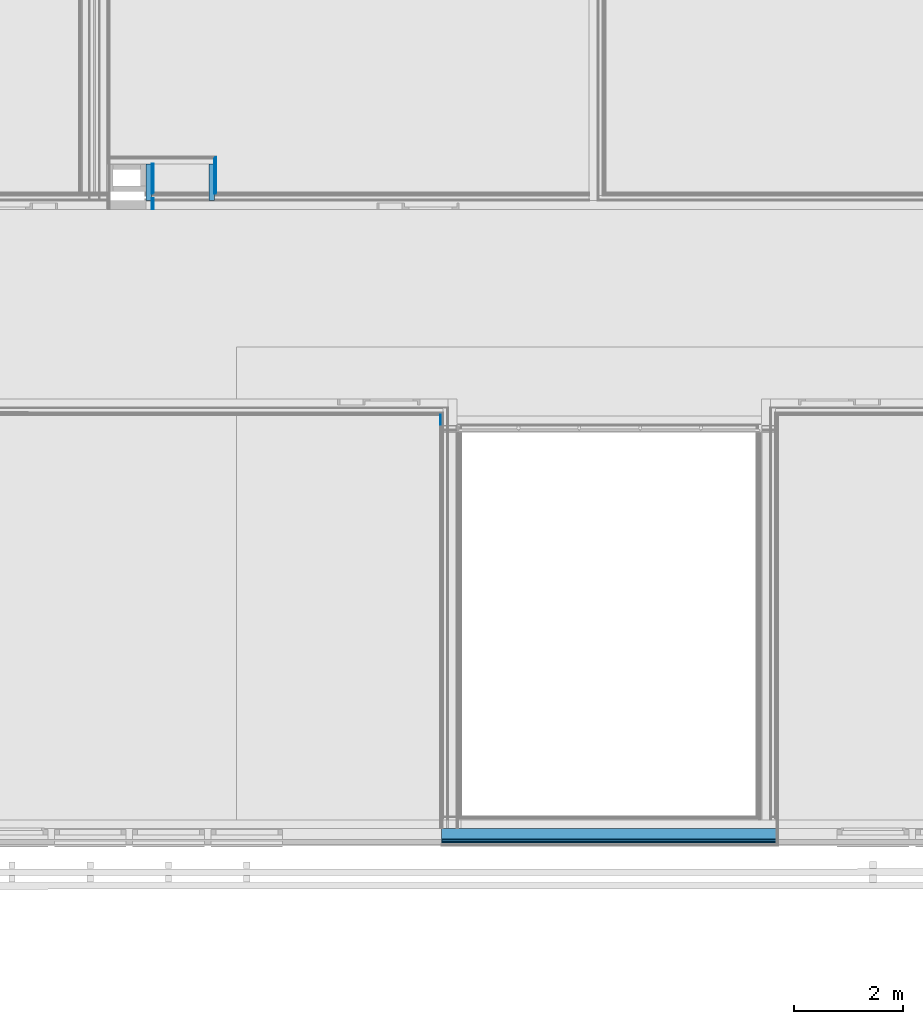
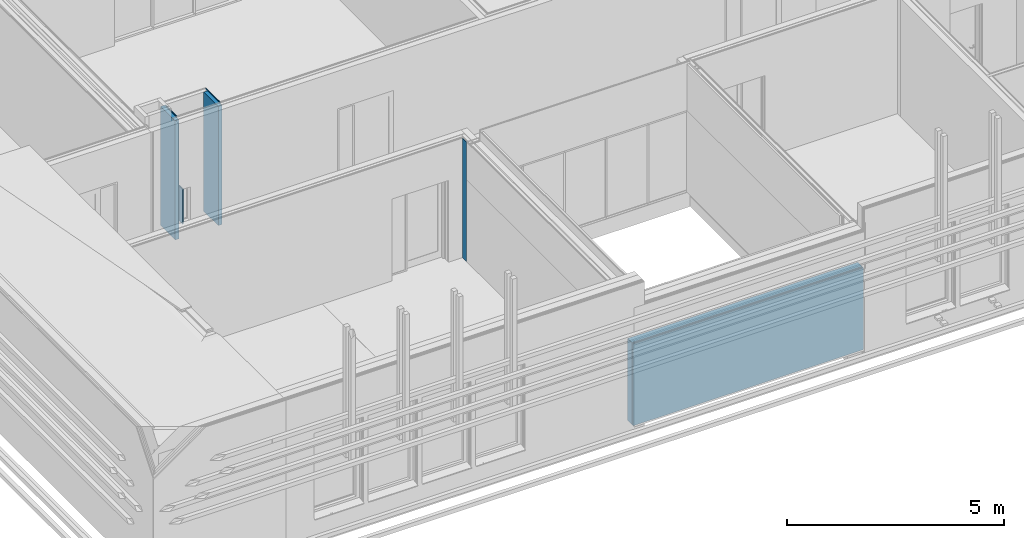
# One storey, part 83 of 139: 12 building element parts, 4 elements without a shape of their own.
"""IFC2X3 building model written with IfcOpenShell, lengths in millimetres."""

from ifc_helpers import new_model, entity, si_unit, converted_unit, derived_unit, money_unit, direction, frame, origin_with_axes, place, context, subcontext, project, spatial, faceted_brep, material, type_object, element, aggregate, save


model = new_model("IFC2X3")

# Units and contexts
model_context = context("Model", 3, precision=0.01, world=origin_with_axes(), true_north=direction((0.0, 1.0)))
body_context = subcontext(model_context, "Body", "Model", "MODEL_VIEW")
ifc_project = project(units=[si_unit("LENGTHUNIT", "METRE", prefix="MILLI"), si_unit("AREAUNIT", "SQUARE_METRE"), si_unit("VOLUMEUNIT", "CUBIC_METRE"), converted_unit("PLANEANGLEUNIT", "DEGREE", entity("IfcPlaneAngleMeasure", 0.0174532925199), si_unit("PLANEANGLEUNIT", "RADIAN"), dimensions=[0, 0, 0, 0, 0, 0, 0]), money_unit("EUR"), converted_unit("TIMEUNIT", "Year", entity("IfcTimeMeasure", 31556926.0), si_unit("TIMEUNIT", "SECOND"), dimensions=[0, 0, 1, 0, 0, 0, 0]), si_unit("MASSUNIT", "GRAM", prefix="KILO"), si_unit("THERMODYNAMICTEMPERATUREUNIT", "DEGREE_CELSIUS"), si_unit("LUMINOUSINTENSITYUNIT", "LUMEN"), si_unit("ENERGYUNIT", "JOULE", prefix="MEGA"), derived_unit("THERMALCONDUCTANCEUNIT", [(si_unit("POWERUNIT", "WATT"), 1), (si_unit("LENGTHUNIT", "METRE"), -1), (si_unit("THERMODYNAMICTEMPERATUREUNIT", "KELVIN"), -1)]), derived_unit("SPECIFICHEATCAPACITYUNIT", [(si_unit("ENERGYUNIT", "JOULE"), 1), (si_unit("MASSUNIT", "GRAM", prefix="KILO"), -1), (si_unit("THERMODYNAMICTEMPERATUREUNIT", "KELVIN"), -1)]), derived_unit("MASSDENSITYUNIT", [(si_unit("MASSUNIT", "GRAM", prefix="KILO"), 1), (si_unit("VOLUMEUNIT", "CUBIC_METRE"), -1)])], contexts=[model_context])

# Site, building, storey
site_placement = place(None, origin_with_axes())
site = spatial("IfcSite", under=ifc_project, at=site_placement, Name="Kolde pst 67a", CompositionType="ELEMENT")
building_placement = place(site_placement, origin_with_axes())
building = spatial("IfcBuilding", under=site, at=building_placement, Name="Riigigümnaasium", CompositionType="ELEMENT")
storey_placement = place(building_placement, frame((0.0, 0.0, 4600.0), z_axis=(0.0, 0.0, 1.0), x_axis=(1.0, 0.0, 0.0)))
storey = spatial("IfcBuildingStorey", under=building, at=storey_placement, Name="2. korrus", CompositionType="ELEMENT", Elevation=4600.0)

# Wall, building element part
wall_type_1 = type_object("IfcWallType", Name="SS-CLT-16/1_vill75+krohv 52 dB 300", PredefinedType="NOTDEFINED")
wall_1_placement = place(storey_placement, frame((12779.9974942, 55889.9665764, -410.0), z_axis=(0.0, 0.0, 1.0), x_axis=(0.0, -1.0, 0.0)))
wall_1 = element("IfcWall", 1, at=wall_1_placement, inside=storey, type_object=wall_type_1, Name="Sisesein")
ifc_material_1 = material(Name="_VIIMISTLUSKIHT - viimistlus vastavalt SA osale")
building_element_part_1_placement = place(wall_1_placement, origin_with_axes())
building_element_part_1 = element("IfcBuildingElementPart", 2, at=building_element_part_1_placement, material=ifc_material_1, Name="_VIIMISTLUSKIHT - viimistlus vastavalt SA osale", context=body_context, shape_type="Brep", body=[
    faceted_brep([(289.999123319, -300.0, 3769.0), (289.999152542, -290.0, 3769.0), (289.999152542, -290.0, 410.0), (289.999123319, -300.0, 410.0), (475.026471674, -290.0, 3769.0), (475.026471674, -300.0, 3769.0), (475.026471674, -290.0, 410.0), (475.026471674, -300.0, 410.0)], [[[0, 1, 2, 3]], [[4, 1, 0, 5]], [[1, 4, 6, 2]], [[7, 3, 2, 6]], [[5, 0, 3, 7]], [[4, 5, 7, 6]]]),
])
aggregate(wall_1, [building_element_part_1])

# Wall, building element parts
wall_type_2 = type_object("IfcWallType", Name="SS-MK-10/6_šahti sein+krohv 40 dB 135", PredefinedType="NOTDEFINED")
wall_2_placement = place(storey_placement, frame((8386.39730454, 60314.9986956, 0.0), z_axis=(0.0, 0.0, 1.0), x_axis=(0.0, -1.0, 0.0)))
wall_2 = element("IfcWall", 3, at=wall_2_placement, inside=storey, type_object=wall_type_2, Name="Varisein")
building_element_part_2_placement = place(wall_2_placement, origin_with_axes())
building_element_part_2 = element("IfcBuildingElementPart", 4, at=building_element_part_2_placement, material=ifc_material_1, Name="_VIIMISTLUSKIHT - viimistlus vastavalt SA osale", context=body_context, shape_type="Brep", body=[
    faceted_brep([(10.0, 0.0, 0.0), (10.0, 0.0, 3350.0), (665.000747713, 0.0, 3350.0), (665.000747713, 0.0, 0.0), (10.0, -10.0, 3350.0), (10.0, -10.0, 0.0), (665.000747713, -10.0, 3350.0), (665.000747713, -10.0, 0.0)], [[[0, 1, 2, 3]], [[4, 1, 0, 5]], [[1, 4, 6, 2]], [[3, 2, 6, 7]], [[5, 0, 3, 7]], [[4, 5, 7, 6]]]),
])
ifc_material_2 = material(Name="_PLAATMATERJAL - kipsplaat veekindel")
building_element_part_3_placement = place(wall_2_placement, origin_with_axes())
building_element_part_3 = element("IfcBuildingElementPart", 5, at=building_element_part_3_placement, material=ifc_material_2, Name="_PLAATMATERJAL - kipsplaat veekindel", context=body_context, shape_type="Brep", body=[
    faceted_brep([(22.5, -10.0, 0.0), (22.5, -10.0, 3350.0), (675.000747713, -10.0, 3350.0), (675.000747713, -10.0, 0.0), (22.5, -22.5, 3350.0), (22.5, -22.5, 0.0), (675.000747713, -22.5, 3350.0), (675.000747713, -22.5, 0.0)], [[[0, 1, 2, 3]], [[4, 1, 0, 5]], [[1, 4, 6, 2]], [[3, 2, 6, 7]], [[5, 0, 3, 7]], [[4, 5, 7, 6]]]),
])
building_element_part_4_placement = place(wall_2_placement, origin_with_axes())
building_element_part_4 = element("IfcBuildingElementPart", 6, at=building_element_part_4_placement, material=ifc_material_2, Name="_PLAATMATERJAL - kipsplaat veekindel", context=body_context, shape_type="Brep", body=[
    faceted_brep([(35.0, -22.5, 0.0), (35.0, -22.5, 3350.0), (675.000747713, -22.5, 3350.0), (675.000747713, -22.5, 0.0), (35.0, -35.0, 3350.0), (35.0, -35.0, 0.0), (675.000747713, -35.0, 3350.0), (675.000747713, -35.0, 0.0)], [[[0, 1, 2, 3]], [[4, 1, 0, 5]], [[1, 4, 6, 2]], [[3, 2, 6, 7]], [[5, 0, 3, 7]], [[4, 5, 7, 6]]]),
])
ifc_material_3 = material(Name="_KARKASS - metallkarkass CW 100/50/06 ja UW 100/40/06, samm 600, vahel mineraalvill, helineeldetegur αw = 1.0,  ISOVER ACOUSTIC 100mm või samaväärne")
building_element_part_5_placement = place(wall_2_placement, origin_with_axes())
building_element_part_5 = element("IfcBuildingElementPart", 7, at=building_element_part_5_placement, material=ifc_material_3, Name="_KARKASS - metallkarkass CW 100/50/06 ja UW 100/40/06, samm 600, vahel mineraalvill, helineeldetegur αw = 1.0,  ISOVER ACOUSTIC 100mm või samaväärne", context=body_context, shape_type="Brep", body=[
    faceted_brep([(135.0, -35.0, 0.0), (135.0, -35.0, 3350.0), (805.000747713, -35.0, 3350.0), (805.000747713, -35.0, 0.0), (135.0, -135.0, 3350.0), (135.0, -135.0, 0.0), (805.000747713, -135.0, 3350.0), (805.000747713, -135.0, 0.0)], [[[0, 1, 2, 3]], [[4, 1, 0, 5]], [[1, 4, 6, 2]], [[3, 2, 6, 7]], [[5, 0, 3, 7]], [[4, 5, 7, 6]]]),
])
aggregate(wall_2, [building_element_part_2, building_element_part_3, building_element_part_4, building_element_part_5])

wall_3_placement = place(storey_placement, frame((7239.99737348, 60314.9987004, 0.0), z_axis=(0.0, 0.0, 1.0), x_axis=(0.0, -1.0, 0.0)))
wall_3 = element("IfcWall", 8, at=wall_3_placement, inside=storey, type_object=wall_type_2, Name="Varisein")
building_element_part_6_placement = place(wall_3_placement, origin_with_axes())
building_element_part_6 = element("IfcBuildingElementPart", 9, at=building_element_part_6_placement, material=ifc_material_1, Name="_VIIMISTLUSKIHT - viimistlus vastavalt SA osale", context=body_context, shape_type="Brep", body=[
    faceted_brep([(765.000752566, 0.0, 500.0), (765.000752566, 0.0, 1480.0), (965.000752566, 0.0, 1480.0), (965.000752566, 0.0, 500.0), (765.000752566, -10.0, 500.0), (765.000752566, -10.0, 1480.0), (965.000752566, -10.0, 1480.0), (965.000752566, -10.0, 500.0)], [[[0, 1, 2, 3]], [[1, 0, 4, 5]], [[1, 5, 6, 2]], [[2, 6, 7, 3]], [[4, 0, 3, 7]], [[4, 7, 6, 5]]]),
    faceted_brep([(135.000004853, 0.0, 0.0), (135.000004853, 0.0, 3350.0), (665.000752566, 0.0, 3350.0), (665.000752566, 0.0, 0.0), (135.000004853, -10.0, 3350.0), (135.000004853, -10.0, 0.0), (665.000752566, -10.0, 3350.0), (665.000752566, -10.0, 0.0)], [[[0, 1, 2, 3]], [[4, 1, 0, 5]], [[1, 4, 6, 2]], [[3, 2, 6, 7]], [[5, 0, 3, 7]], [[4, 5, 7, 6]]]),
])
building_element_part_7_placement = place(wall_3_placement, origin_with_axes())
building_element_part_7 = element("IfcBuildingElementPart", 10, at=building_element_part_7_placement, material=ifc_material_2, Name="_PLAATMATERJAL - kipsplaat veekindel", context=body_context, shape_type="Brep", body=[
    faceted_brep([(765.000752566, -10.0, 500.0), (765.000752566, -10.0, 1480.0), (965.000752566, -10.0, 1480.0), (965.000752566, -10.0, 500.0), (765.000752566, -22.5, 500.0), (765.000752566, -22.5, 1480.0), (965.000752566, -22.5, 1480.0), (965.000752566, -22.5, 500.0)], [[[0, 1, 2, 3]], [[1, 0, 4, 5]], [[1, 5, 6, 2]], [[2, 6, 7, 3]], [[4, 0, 3, 7]], [[4, 7, 6, 5]]]),
    faceted_brep([(135.000004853, -10.0, 0.0), (135.000004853, -10.0, 3350.0), (675.000752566, -10.0, 3350.0), (675.000752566, -10.0, 0.0), (135.000004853, -22.5, 3350.0), (135.000004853, -22.5, 0.0), (675.000752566, -22.5, 3350.0), (675.000752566, -22.5, 0.0)], [[[0, 1, 2, 3]], [[4, 1, 0, 5]], [[1, 4, 6, 2]], [[3, 2, 6, 7]], [[5, 0, 3, 7]], [[4, 5, 7, 6]]]),
])
building_element_part_8_placement = place(wall_3_placement, origin_with_axes())
building_element_part_8 = element("IfcBuildingElementPart", 11, at=building_element_part_8_placement, material=ifc_material_2, Name="_PLAATMATERJAL - kipsplaat veekindel", context=body_context, shape_type="Brep", body=[
    faceted_brep([(765.000752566, -22.5, 500.0), (765.000752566, -22.5, 1480.0), (965.000752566, -22.5, 1480.0), (965.000752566, -22.5, 500.0), (765.000752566, -32.2965391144, 500.0), (765.000752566, -32.2965391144, 1480.0), (965.000752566, -32.2965391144, 1480.0), (965.000752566, -32.2965391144, 500.0)], [[[0, 1, 2, 3]], [[1, 0, 4, 5]], [[1, 5, 6, 2]], [[7, 3, 2, 6]], [[4, 0, 3, 7]], [[5, 4, 7, 6]]]),
    faceted_brep([(135.000004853, -22.5, 0.0), (135.000004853, -22.5, 3350.0), (675.000752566, -22.5, 3350.0), (675.000752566, -22.5, 0.0), (135.000004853, -35.0, 3350.0), (135.000004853, -35.0, 0.0), (675.000752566, -35.0, 3350.0), (675.000752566, -35.0, 0.0)], [[[0, 1, 2, 3]], [[4, 1, 0, 5]], [[1, 4, 6, 2]], [[3, 2, 6, 7]], [[5, 0, 3, 7]], [[4, 5, 7, 6]]]),
])
building_element_part_9_placement = place(wall_3_placement, origin_with_axes())
building_element_part_9 = element("IfcBuildingElementPart", 12, at=building_element_part_9_placement, material=ifc_material_3, Name="_KARKASS - metallkarkass CW 100/50/06 ja UW 100/40/06, samm 600, vahel mineraalvill, helineeldetegur αw = 1.0,  ISOVER ACOUSTIC 100mm või samaväärne", context=body_context, shape_type="Brep", body=[
    faceted_brep([(135.000004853, -35.0, 0.0), (135.000004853, -35.0, 3350.0), (805.000752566, -35.0, 3350.0), (805.000752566, -35.0, 0.0), (135.000004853, -135.0, 3350.0), (135.000004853, -135.0, 0.0), (805.000752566, -135.0, 3350.0), (805.000752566, -135.0, 0.0)], [[[0, 1, 2, 3]], [[4, 1, 0, 5]], [[1, 4, 6, 2]], [[3, 2, 6, 7]], [[5, 0, 3, 7]], [[4, 5, 7, 6]]]),
])
aggregate(wall_3, [building_element_part_6, building_element_part_7, building_element_part_8, building_element_part_9])

wall_type_3 = type_object("IfcWallType", Name="VS-CLT-16/9_18vineer+karkass 32+CLT160+soojust 200   522", PredefinedType="NOTDEFINED")
wall_4_placement = place(storey_placement, frame((12504.9974942, 48039.9808308, 0.0), z_axis=(0.0, 0.0, 1.0), x_axis=(1.0, 0.0, 0.0)))
wall_4 = element("IfcWall", 13, at=wall_4_placement, inside=storey, type_object=wall_type_3, Name="Välissein")
ifc_material_4 = material(Name="_SOOJUSTUS - mineraalvill, λD<0,032 W/(mK), kuumtsingitud lehtteras termoroovidega, S350GD+Zn275 vastavalt EN10346, ISOVER EXTREME 32 200mm või samaväärne")
building_element_part_10_placement = place(wall_4_placement, origin_with_axes())
building_element_part_10 = element("IfcBuildingElementPart", 14, at=building_element_part_10_placement, material=ifc_material_4, Name="_SOOJUSTUS - mineraalvill, λD<0,032 W/(mK), kuumtsingitud lehtteras termoroovidega, S350GD+Zn275 vastavalt EN10346, ISOVER EXTREME 32 200mm või samaväärne", context=body_context, shape_type="Brep", body=[
    faceted_brep([(6120.00604999, 0.0, 0.0), (6120.00604999, -200.0, 0.0), (0.0, -200.0, 0.0), (0.0, 0.0, 0.0), (6120.00604999, 0.0, 2300.0), (6120.00604999, -200.0, 2300.0), (0.0, -200.0, 2300.0), (0.0, 0.0, 2300.0)], [[[0, 1, 2, 3]], [[0, 4, 5, 1]], [[1, 5, 6, 2]], [[3, 2, 6, 7]], [[4, 0, 3, 7]], [[5, 4, 7, 6]]]),
])
ifc_material_5 = material(Name="_TUULETÕKE - tuuletõkkeplaat, soojuserijuhtivus λD<0,031 W/(mK), ISOVER RKL FACADE või samaväärne, liitekohad katta tihendusteibiga ISOVER FacadeTape või samaväärne")
building_element_part_11_placement = place(wall_4_placement, origin_with_axes())
building_element_part_11 = element("IfcBuildingElementPart", 15, at=building_element_part_11_placement, material=ifc_material_5, Name="_TUULETÕKE - tuuletõkkeplaat, soojuserijuhtivus λD<0,031 W/(mK), ISOVER RKL FACADE või samaväärne, liitekohad katta tihendusteibiga ISOVER FacadeTape või samaväärne", context=body_context, shape_type="Brep", body=[
    faceted_brep([(6120.00604999, -200.0, 0.0), (6120.00604999, -230.0, 0.0), (0.0, -230.0, 0.0), (0.0, -200.0, 0.0), (6120.00604999, -200.0, 2300.0), (6120.00604999, -230.0, 2300.0), (0.0, -230.0, 2300.0), (0.0, -200.0, 2300.0)], [[[0, 1, 2, 3]], [[0, 4, 5, 1]], [[1, 5, 6, 2]], [[3, 2, 6, 7]], [[4, 0, 3, 7]], [[5, 4, 7, 6]]]),
])
ifc_material_6 = material(Name="_KARKASS - puitroov 32x50mm vertikaalne, immutatud Driconi tulekaitsevahendiga või samaväärne, samm 600mm")
building_element_part_12_placement = place(wall_4_placement, origin_with_axes())
building_element_part_12 = element("IfcBuildingElementPart", 16, at=building_element_part_12_placement, material=ifc_material_6, Name="_KARKASS - puitroov 32x50mm vertikaalne, immutatud Driconi tulekaitsevahendiga või samaväärne, samm 600mm", context=body_context, shape_type="Brep", body=[
    faceted_brep([(6120.00604999, -230.0, 0.0), (6120.00604999, -262.0, 0.0), (0.0, -262.0, 0.0), (0.0, -230.0, 0.0), (6120.00604999, -230.0, 2300.0), (6120.00604999, -262.0, 2300.0), (0.0, -262.0, 2300.0), (0.0, -230.0, 2300.0)], [[[0, 1, 2, 3]], [[0, 4, 5, 1]], [[1, 5, 6, 2]], [[3, 2, 6, 7]], [[4, 0, 3, 7]], [[5, 4, 7, 6]]]),
])
aggregate(wall_4, [building_element_part_10, building_element_part_11, building_element_part_12])

save(model, "model.ifc")
